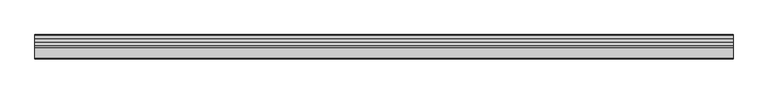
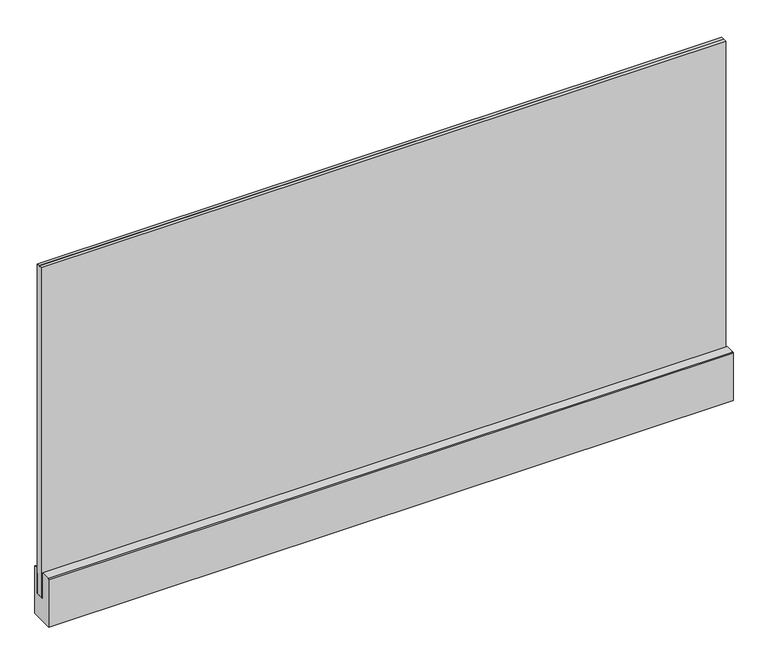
"""IFC4 building model written with IfcOpenShell, lengths in millimetres: railing geometry, Glass Railing (8+8) - Faraone - Ninfa 186 - Fascia mounted - Without Handrail."""

from ifc_helpers import new_model, si_unit, point, frame, frame_2d, origin, place, context, project, spatial, polyline, circle_curve, trimmed, segment, composite_curve, outline, extrude, source, transform, mapped, element, save


def railing_30ff9a55(model_context):
    return source(origin(), model_context, "Body", "SweptSolid", [
        extrude(outline(polyline([(-509.395873, -92.36), (-530.895873, -92.36), (-530.895873, 1089.54), (-520.645873, 1089.54), (-520.645873, -91.56), (-519.645873, -91.56), (-519.645873, 1089.54), (-509.395873, 1089.54), (-509.395873, -92.36)])), frame((4362.6376845, 0.0, 0.0), z_axis=(1.0, 0.0, 0.0), x_axis=(0.0, 1.0, 0.0)), (0.0, 0.0, 1.0), 2320.0),
        extrude(outline(composite_curve([segment(trimmed(circle_curve(frame_2d((-497.5233034, -3.1212327)), 3.1206002), [point((-497.5233034, -0.0006325))], [point((-494.4027033, -3.1212327))], False, "CARTESIAN"), True, "CONTINUOUS"), segment(polyline([(-494.4027033, -3.1212327), (-494.4027033, -173.21), (-574.7462367, -173.21), (-574.7462367, -3.0621312)]), True, "CONTINUOUS"), segment(trimmed(circle_curve(frame_2d((-571.684738, -3.0621312)), 3.0614987), [point((-574.7462367, -3.0621312))], [point((-571.684738, -0.0006325))], False, "CARTESIAN"), True, "CONTINUOUS"), segment(polyline([(-571.684738, -0.0006325), (-539.2040021, -0.0006325), (-539.2040021, -95.3393625), (-507.427744, -95.3393625), (-507.427744, -0.0006325), (-497.5233034, -0.0006325)]), True, "CONTINUOUS")], self_intersect=False)), frame((4362.6376845, 0.0, 0.0), z_axis=(1.0, 0.0, 0.0), x_axis=(0.0, 1.0, 0.0)), (0.0, 0.0, 1.0), 2320.0),
        extrude(outline(polyline([(-507.4239582, -95.34), (-530.9077878, -95.34), (-530.9077878, -92.3609041), (-509.3979062, -92.3609041), (-509.3979062, -20.1108016), (-507.4239582, -20.1108016), (-507.4239582, -95.34)])), frame((4362.6376845, 0.0, 0.0), z_axis=(1.0, 0.0, 0.0), x_axis=(0.0, 1.0, 0.0)), (0.0, 0.0, 1.0), 2320.0),
    ])


if __name__ == "__main__":
    model = new_model("IFC4")
    model_context = context("Model", 3, world=origin())
    ifc_project = project(units=[si_unit("LENGTHUNIT", "METRE", prefix="MILLI")], contexts=[model_context])
    site = spatial("IfcSite", under=ifc_project)
    building = spatial("IfcBuilding", under=site)
    placement = place(None, origin())
    railing_shape = railing_30ff9a55(model_context)
    element("IfcRailing", 1, ObjectType="Glass Railing (8+8) - Faraone - Ninfa 186 - Fascia mounted - Without Handrail", at=placement, inside=building, context=model_context, shape_type="MappedRepresentation", body=[
        mapped(railing_shape, transform((0.0, 0.0, 0.0), x_axis=(1.0, 0.0, 0.0), y_axis=(0.0, 1.0, 0.0), z_axis=(0.0, 0.0, 1.0))),
    ])
    save(model, "model.ifc")
